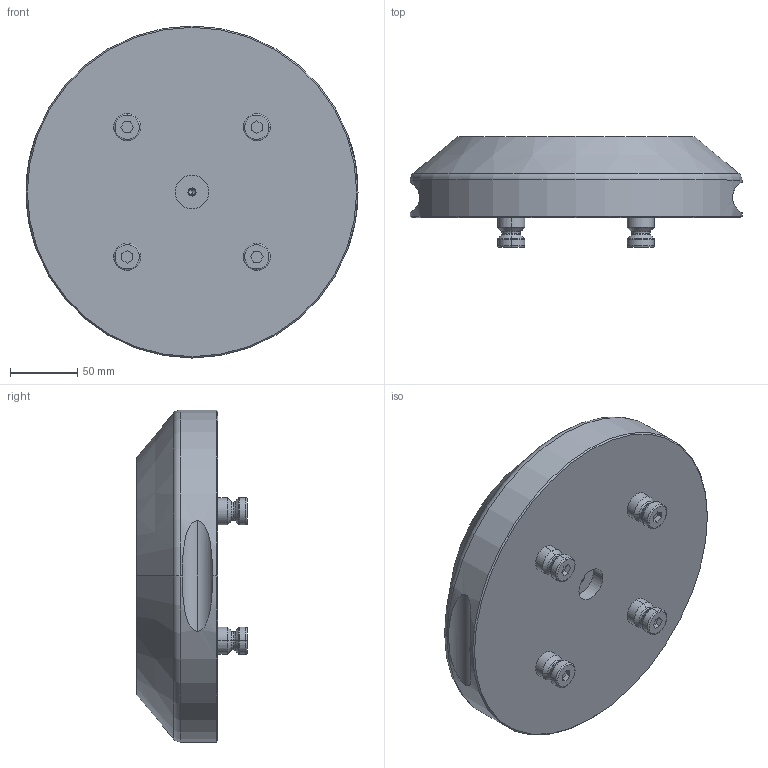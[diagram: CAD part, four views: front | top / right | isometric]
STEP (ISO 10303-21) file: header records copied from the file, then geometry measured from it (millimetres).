
FILE_DESCRIPTION (( 'STEP AP203' ), '1' );
FILE_NAME ('44006.STEP', '2012-10-01T09:31:16', ( '' ), ( '' ), 'SwSTEP 2.0', 'SolidWorks 2011', '' );
FILE_SCHEMA (( 'CONFIG_CONTROL_DESIGN' ));
Length unit declared in the file: millimetre
Products named in the file (1): 44006
Bounding box: 246 x 82 x 246 mm (x, y, z)
Volume: 2484844.2 mm3; surface area: 142881.4 mm2
Topology: 5 solids, 5 shells, 224 faces, 479 edges, 269 vertices
Faces by surface type: cone 76, cylinder 65, plane 49, torus 34
Entity records: 6168 total; most frequent: CARTESIAN_POINT 1219, DIRECTION 1139, ORIENTED_EDGE 914, AXIS2_PLACEMENT_3D 463, EDGE_CURVE 457, VERTEX_POINT 269, EDGE_LOOP 250, CIRCLE 238
